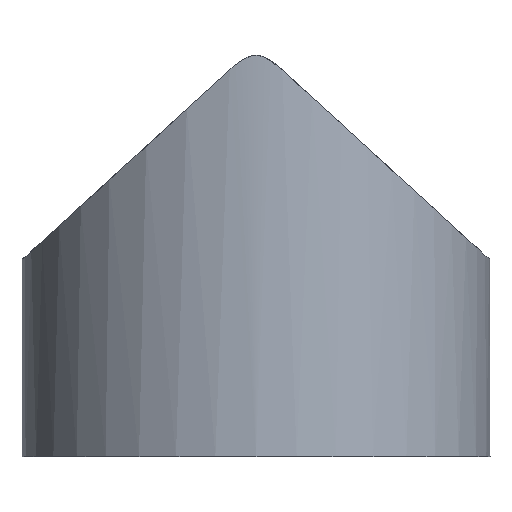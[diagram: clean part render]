
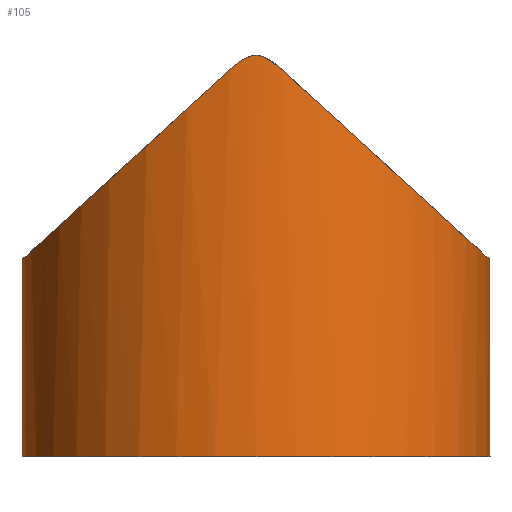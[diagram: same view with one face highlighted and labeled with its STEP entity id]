
A CAD part, left-side view. The second image highlights one B-rep face of the part: STEP entity #105.
In plain terms, the highlighted cylindrical face has radius 4.445 mm (diameter 8.89 mm), a full revolution.
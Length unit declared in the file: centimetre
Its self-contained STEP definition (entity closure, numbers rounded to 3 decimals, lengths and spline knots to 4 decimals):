
#34=CIRCLE('',#112,0.4445);
#35=CYLINDRICAL_SURFACE('',#111,0.4445);
#36=B_SPLINE_CURVE_WITH_KNOTS('',3,(#150,#151,#152,#153,#154,#155,#156,#157),
 .UNSPECIFIED.,.F.,.U.,(4,2,2,4),(0.,0.0289,0.0454,
0.0637),.UNSPECIFIED.);
#37=B_SPLINE_CURVE_WITH_KNOTS('',3,(#159,#160,#161,#162,#163,#164,#165,#166),
 .UNSPECIFIED.,.F.,.U.,(4,2,2,4),(0.,0.0128,0.0235,
0.0335),.UNSPECIFIED.);
#38=B_SPLINE_CURVE_WITH_KNOTS('',3,(#181,#182,#183,#184,#185,#186,#187,#188),
 .UNSPECIFIED.,.F.,.U.,(4,2,2,4),(0.,0.0128,0.0235,
0.0335),.UNSPECIFIED.);
#39=B_SPLINE_CURVE_WITH_KNOTS('',3,(#189,#190,#191,#192,#193,#194,#195,#196,
#197,#198),.UNSPECIFIED.,.F.,.U.,(4,2,2,2,4),(0.,0.0137,0.045,
0.0687,0.0924),.UNSPECIFIED.);
#48=VERTEX_POINT('',#130);
#49=VERTEX_POINT('',#131);
#50=VERTEX_POINT('',#135);
#51=VERTEX_POINT('',#136);
#52=VERTEX_POINT('',#158);
#53=VERTEX_POINT('',#167);
#54=VERTEX_POINT('',#201);
#55=ELLIPSE('',#108,0.6021,0.4445);
#56=ELLIPSE('',#110,0.6021,0.4445);
#57=EDGE_CURVE('',#48,#49,#55,.T.);
#59=EDGE_CURVE('',#50,#51,#56,.T.);
#61=EDGE_CURVE('',#51,#52,#36,.T.);
#62=EDGE_CURVE('',#53,#50,#37,.T.);
#64=EDGE_CURVE('',#52,#48,#38,.T.);
#65=EDGE_CURVE('',#49,#53,#39,.T.);
#66=EDGE_CURVE('',#54,#54,#34,.T.);
#79=ORIENTED_EDGE('',*,*,#59,.T.);
#80=ORIENTED_EDGE('',*,*,#61,.T.);
#81=ORIENTED_EDGE('',*,*,#64,.T.);
#82=ORIENTED_EDGE('',*,*,#57,.T.);
#83=ORIENTED_EDGE('',*,*,#65,.T.);
#84=ORIENTED_EDGE('',*,*,#62,.T.);
#85=ORIENTED_EDGE('',*,*,#66,.T.);
#91=EDGE_LOOP('',(#79,#80,#81,#82,#83,#84));
#92=EDGE_LOOP('',(#85));
#98=FACE_BOUND('',#91,.T.);
#99=FACE_BOUND('',#92,.T.);
#105=ADVANCED_FACE('',(#98,#99),#35,.T.);
#108=AXIS2_PLACEMENT_3D('',#129,#115,#116);
#110=AXIS2_PLACEMENT_3D('',#134,#119,#120);
#111=AXIS2_PLACEMENT_3D('',#199,#123,#124);
#112=AXIS2_PLACEMENT_3D('',#200,#125,#126);
#115=DIRECTION('',(0.,0.675,-0.738));
#116=DIRECTION('',(0.,0.445,0.406));
#119=DIRECTION('',(0.,-0.675,-0.738));
#120=DIRECTION('',(0.,0.445,-0.406));
#123=DIRECTION('',(0.,0.,1.));
#124=DIRECTION('',(0.445,0.,0.));
#125=DIRECTION('',(0.,0.,1.));
#126=DIRECTION('',(0.445,0.,0.));
#129=CARTESIAN_POINT('',(0.,0.,0.78));
#130=CARTESIAN_POINT('',(0.4417,-0.0498,0.7345));
#131=CARTESIAN_POINT('',(-0.4417,-0.0498,0.7345));
#134=CARTESIAN_POINT('',(0.,0.,0.78));
#135=CARTESIAN_POINT('',(-0.4417,0.0498,0.7345));
#136=CARTESIAN_POINT('',(0.4417,0.0498,0.7345));
#150=CARTESIAN_POINT('',(0.4417,0.0498,0.7345));
#151=CARTESIAN_POINT('',(0.4425,0.0427,0.741));
#152=CARTESIAN_POINT('',(0.4432,0.0353,0.7474));
#153=CARTESIAN_POINT('',(0.444,0.0224,0.7555));
#154=CARTESIAN_POINT('',(0.4441,0.0182,0.7577));
#155=CARTESIAN_POINT('',(0.4444,0.0096,0.7609));
#156=CARTESIAN_POINT('',(0.4445,0.0049,0.762));
#157=CARTESIAN_POINT('',(0.4445,0.,0.762));
#158=CARTESIAN_POINT('',(0.4445,0.,0.762));
#159=CARTESIAN_POINT('',(-0.4445,0.,0.762));
#160=CARTESIAN_POINT('',(-0.4445,0.0043,0.762));
#161=CARTESIAN_POINT('',(-0.4444,0.0085,0.7612));
#162=CARTESIAN_POINT('',(-0.4442,0.0159,0.7587));
#163=CARTESIAN_POINT('',(-0.4441,0.0215,0.7564));
#164=CARTESIAN_POINT('',(-0.443,0.0366,0.7462));
#165=CARTESIAN_POINT('',(-0.4424,0.0434,0.7404));
#166=CARTESIAN_POINT('',(-0.4417,0.0498,0.7345));
#167=CARTESIAN_POINT('',(-0.4445,0.,0.762));
#181=CARTESIAN_POINT('',(0.4445,0.,0.762));
#182=CARTESIAN_POINT('',(0.4445,-0.0043,0.762));
#183=CARTESIAN_POINT('',(0.4444,-0.0085,0.7612));
#184=CARTESIAN_POINT('',(0.4442,-0.0159,0.7587));
#185=CARTESIAN_POINT('',(0.4441,-0.0215,0.7564));
#186=CARTESIAN_POINT('',(0.443,-0.0366,0.7462));
#187=CARTESIAN_POINT('',(0.4424,-0.0434,0.7404));
#188=CARTESIAN_POINT('',(0.4417,-0.0498,0.7345));
#189=CARTESIAN_POINT('',(-0.4417,-0.0498,0.7345));
#190=CARTESIAN_POINT('',(-0.4421,-0.0465,0.7376));
#191=CARTESIAN_POINT('',(-0.4424,-0.043,0.7406));
#192=CARTESIAN_POINT('',(-0.4435,-0.0315,0.7501));
#193=CARTESIAN_POINT('',(-0.4438,-0.0255,0.7537));
#194=CARTESIAN_POINT('',(-0.4442,-0.0179,0.7578));
#195=CARTESIAN_POINT('',(-0.4443,-0.0145,0.7593));
#196=CARTESIAN_POINT('',(-0.4445,-0.0074,0.7614));
#197=CARTESIAN_POINT('',(-0.4445,-0.0037,0.762));
#198=CARTESIAN_POINT('',(-0.4445,0.,0.762));
#199=CARTESIAN_POINT('',(0.,0.,0.));
#200=CARTESIAN_POINT('',(0.,0.,0.));
#201=CARTESIAN_POINT('',(0.4445,0.,0.));
